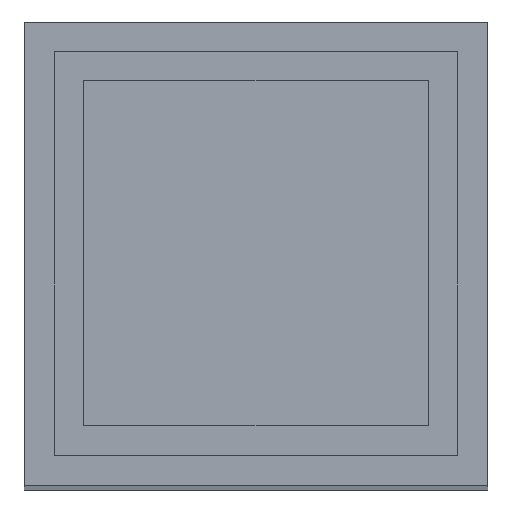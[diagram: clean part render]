
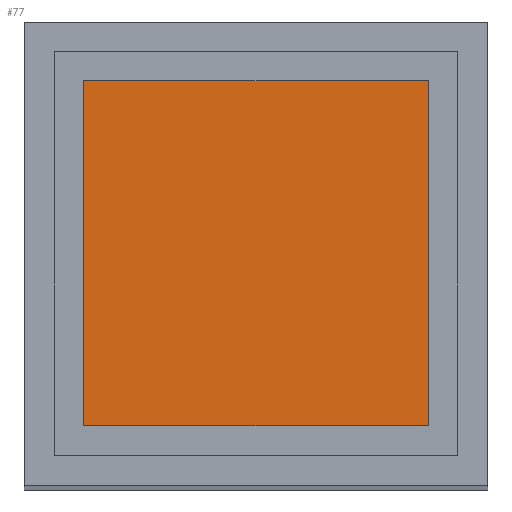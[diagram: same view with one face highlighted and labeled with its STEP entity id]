
A CAD part, top view. The second image highlights one B-rep face of the part: STEP entity #77.
In plain terms, the highlighted planar face has unit normal (0, 0, 1).
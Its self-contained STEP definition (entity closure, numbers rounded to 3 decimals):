
#77 = ADVANCED_FACE( '', ( #147 ), #148, .T. );
#147 = FACE_OUTER_BOUND( '', #211, .T. );
#148 = PLANE( '', #212 );
#211 = EDGE_LOOP( '', ( #298, #299, #300, #301 ) );
#212 = AXIS2_PLACEMENT_3D( '', #302, #303, #304 );
#298 = ORIENTED_EDGE( '', *, *, #386, .T. );
#299 = ORIENTED_EDGE( '', *, *, #411, .T. );
#300 = ORIENTED_EDGE( '', *, *, #391, .T. );
#301 = ORIENTED_EDGE( '', *, *, #412, .T. );
#302 = CARTESIAN_POINT( '', ( 0., 0., 575. ) );
#303 = DIRECTION( '', ( 0., 0., 1. ) );
#304 = DIRECTION( '', ( 1., 0., 0. ) );
#386 = EDGE_CURVE( '', #445, #443, #446, .T. );
#391 = EDGE_CURVE( '', #454, #452, #455, .T. );
#411 = EDGE_CURVE( '', #443, #454, #485, .T. );
#412 = EDGE_CURVE( '', #452, #445, #486, .T. );
#443 = VERTEX_POINT( '', #524 );
#445 = VERTEX_POINT( '', #527 );
#446 = LINE( '', #528, #529 );
#452 = VERTEX_POINT( '', #537 );
#454 = VERTEX_POINT( '', #540 );
#455 = LINE( '', #541, #542 );
#485 = LINE( '', #586, #587 );
#486 = LINE( '', #588, #589 );
#524 = CARTESIAN_POINT( '', ( 33.5, 33.5, 575. ) );
#527 = CARTESIAN_POINT( '', ( 33.5, -33.5, 575. ) );
#528 = CARTESIAN_POINT( '', ( 33.5, -33.5, 575. ) );
#529 = VECTOR( '', #624, 1000. );
#537 = CARTESIAN_POINT( '', ( -33.5, -33.5, 575. ) );
#540 = CARTESIAN_POINT( '', ( -33.5, 33.5, 575. ) );
#541 = CARTESIAN_POINT( '', ( -33.5, 33.5, 575. ) );
#542 = VECTOR( '', #628, 1000. );
#586 = CARTESIAN_POINT( '', ( 33.5, 33.5, 575. ) );
#587 = VECTOR( '', #643, 1000. );
#588 = CARTESIAN_POINT( '', ( -33.5, -33.5, 575. ) );
#589 = VECTOR( '', #644, 1000. );
#624 = DIRECTION( '', ( 0., 1., 0. ) );
#628 = DIRECTION( '', ( 0., -1., 0. ) );
#643 = DIRECTION( '', ( -1., 0., 0. ) );
#644 = DIRECTION( '', ( 1., 0., 0. ) );
